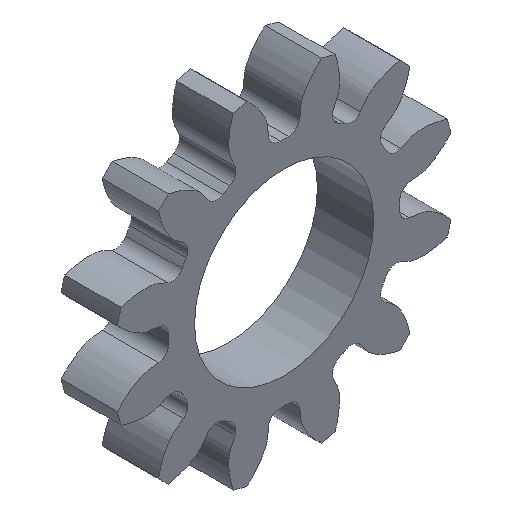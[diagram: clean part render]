
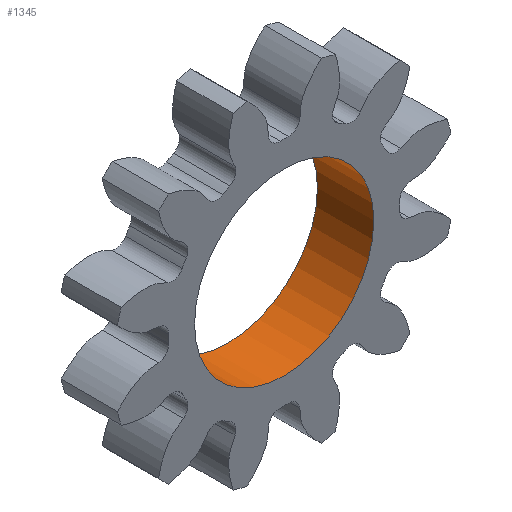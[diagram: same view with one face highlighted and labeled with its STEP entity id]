
A CAD part, isometric view. The second image highlights one B-rep face of the part: STEP entity #1345.
In plain terms, the highlighted cylindrical face has radius 11.127 mm (diameter 22.254 mm), a full revolution.
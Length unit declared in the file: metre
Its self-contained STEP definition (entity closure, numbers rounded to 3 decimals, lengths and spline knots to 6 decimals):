
#108=CIRCLE('',#1455,0.011127);
#146=CIRCLE('',#1494,0.011127);
#301=ORIENTED_EDGE('',*,*,#664,.T.);
#302=ORIENTED_EDGE('',*,*,#726,.F.);
#664=EDGE_CURVE('',#882,#882,#108,.T.);
#726=EDGE_CURVE('',#933,#933,#146,.T.);
#882=VERTEX_POINT('',#2044);
#933=VERTEX_POINT('',#2326);
#1141=EDGE_LOOP('',(#301));
#1142=EDGE_LOOP('',(#302));
#1219=FACE_BOUND('',#1141,.T.);
#1220=FACE_BOUND('',#1142,.T.);
#1295=CYLINDRICAL_SURFACE('',#1493,0.011127);
#1345=ADVANCED_FACE('',(#1219,#1220),#1295,.F.);
#1455=AXIS2_PLACEMENT_3D('',#2043,#1662,#1663);
#1493=AXIS2_PLACEMENT_3D('',#2324,#1738,#1739);
#1494=AXIS2_PLACEMENT_3D('',#2325,#1740,#1741);
#1662=DIRECTION('',(0.,-1.,0.));
#1663=DIRECTION('',(0.,0.,-1.));
#1738=DIRECTION('',(0.,1.,0.));
#1739=DIRECTION('',(0.,0.,1.));
#1740=DIRECTION('',(0.,-1.,0.));
#1741=DIRECTION('',(0.,0.,-1.));
#2043=CARTESIAN_POINT('',(0.036576,-0.007,0.));
#2044=CARTESIAN_POINT('',(0.036576,-0.007,-0.011127));
#2324=CARTESIAN_POINT('',(0.036576,-0.007,0.));
#2325=CARTESIAN_POINT('',(0.036576,0.,0.));
#2326=CARTESIAN_POINT('',(0.036576,0.,-0.011127));
